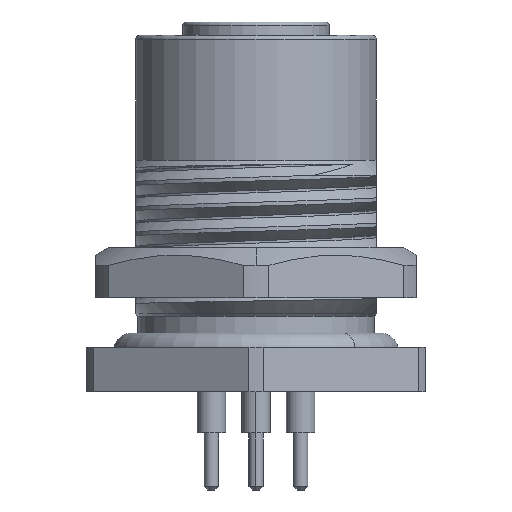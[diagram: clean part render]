
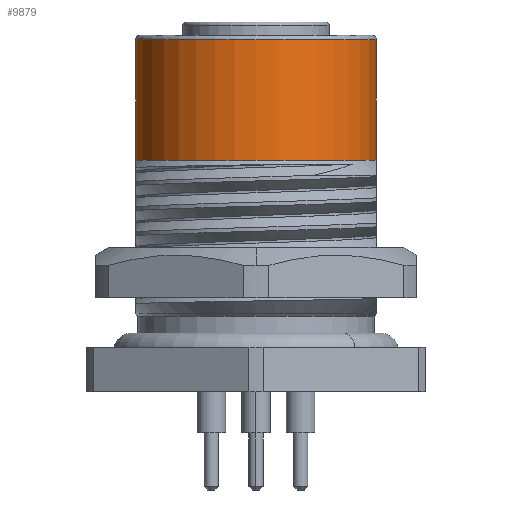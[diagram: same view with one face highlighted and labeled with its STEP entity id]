
A CAD part, front view. The second image highlights one B-rep face of the part: STEP entity #9879.
In plain terms, the highlighted cylindrical face has radius 6.75 mm (diameter 13.5 mm), a partial arc.
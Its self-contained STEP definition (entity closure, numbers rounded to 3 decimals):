
#555 = CARTESIAN_POINT ( 'NONE',  ( -6.75, 0., 13. ) ) ;
#959 = DIRECTION ( 'NONE',  ( 0., 0., -1. ) ) ;
#1202 = LINE ( 'NONE', #20638, #17185 ) ;
#1443 = FACE_OUTER_BOUND ( 'NONE', #17496, .T. ) ;
#2068 = VERTEX_POINT ( 'NONE', #555 ) ;
#2782 = EDGE_CURVE ( 'NONE', #20449, #17260, #13307, .T. ) ;
#5456 = AXIS2_PLACEMENT_3D ( 'NONE', #17562, #7597, #19283 ) ;
#6820 = AXIS2_PLACEMENT_3D ( 'NONE', #19243, #9188, #20925 ) ;
#7125 = VERTEX_POINT ( 'NONE', #17983 ) ;
#7513 = CARTESIAN_POINT ( 'NONE',  ( -6.75, 0., 20. ) ) ;
#7597 = DIRECTION ( 'NONE',  ( 0., 0., 1. ) ) ;
#9188 = DIRECTION ( 'NONE',  ( 0., 0., -1. ) ) ;
#9713 = DIRECTION ( 'NONE',  ( -1., 0., 0. ) ) ;
#9879 = ADVANCED_FACE ( 'NONE', ( #1443 ), #18512, .T. ) ;
#9888 = CARTESIAN_POINT ( 'NONE',  ( 6.75, 0., 19.75 ) ) ;
#11430 = CIRCLE ( 'NONE', #5456, 6.75 ) ;
#11467 = ORIENTED_EDGE ( 'NONE', *, *, #11916, .T. ) ;
#11916 = EDGE_CURVE ( 'NONE', #17260, #2068, #13534, .T. ) ;
#13081 = ORIENTED_EDGE ( 'NONE', *, *, #18482, .F. ) ;
#13307 = CIRCLE ( 'NONE', #6820, 6.75 ) ;
#13534 = LINE ( 'NONE', #7513, #18052 ) ;
#16338 = CARTESIAN_POINT ( 'NONE',  ( 0., 0., 20. ) ) ;
#16463 = AXIS2_PLACEMENT_3D ( 'NONE', #16338, #19787, #9713 ) ;
#16658 = EDGE_CURVE ( 'NONE', #2068, #7125, #11430, .T. ) ;
#17185 = VECTOR ( 'NONE', #17216, 1000. ) ;
#17216 = DIRECTION ( 'NONE',  ( 0., 0., -1. ) ) ;
#17260 = VERTEX_POINT ( 'NONE', #20844 ) ;
#17280 = ORIENTED_EDGE ( 'NONE', *, *, #2782, .T. ) ;
#17496 = EDGE_LOOP ( 'NONE', ( #13081, #17280, #11467, #19173 ) ) ;
#17562 = CARTESIAN_POINT ( 'NONE',  ( 0., 0., 13. ) ) ;
#17983 = CARTESIAN_POINT ( 'NONE',  ( 6.75, 0., 13. ) ) ;
#18052 = VECTOR ( 'NONE', #959, 1000. ) ;
#18482 = EDGE_CURVE ( 'NONE', #20449, #7125, #1202, .T. ) ;
#18512 = CYLINDRICAL_SURFACE ( 'NONE', #16463, 6.75 ) ;
#19173 = ORIENTED_EDGE ( 'NONE', *, *, #16658, .T. ) ;
#19243 = CARTESIAN_POINT ( 'NONE',  ( 0., 0., 19.75 ) ) ;
#19283 = DIRECTION ( 'NONE',  ( 1., 0., 0. ) ) ;
#19787 = DIRECTION ( 'NONE',  ( 0., 0., -1. ) ) ;
#20449 = VERTEX_POINT ( 'NONE', #9888 ) ;
#20638 = CARTESIAN_POINT ( 'NONE',  ( 6.75, 0., 20. ) ) ;
#20844 = CARTESIAN_POINT ( 'NONE',  ( -6.75, 0., 19.75 ) ) ;
#20925 = DIRECTION ( 'NONE',  ( 1., 0., 0. ) ) ;
